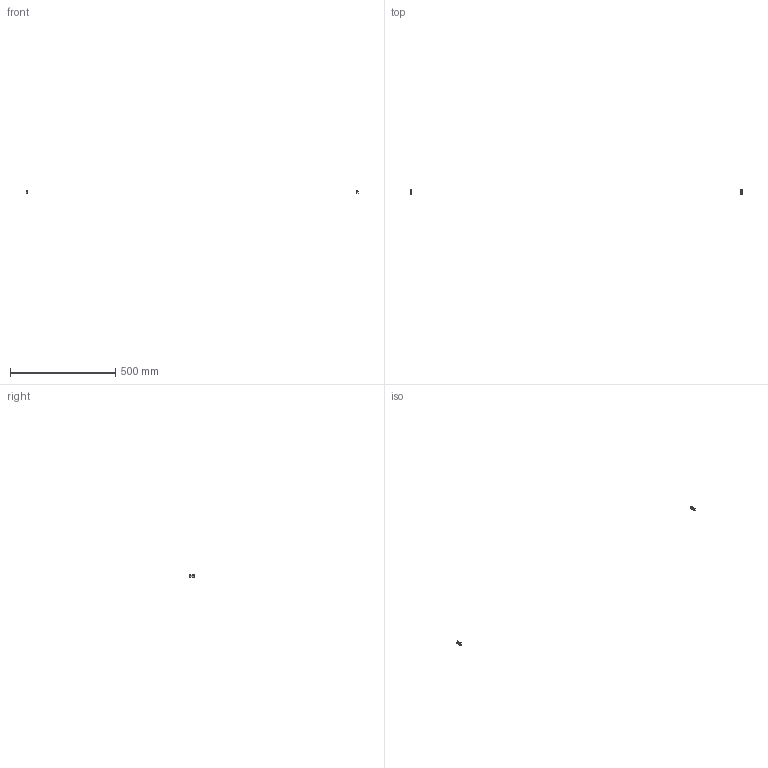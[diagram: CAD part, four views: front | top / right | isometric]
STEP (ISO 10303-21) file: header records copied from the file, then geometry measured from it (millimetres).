
FILE_DESCRIPTION(/* description */ (''),/* implementation_level */ '2;1');
FILE_NAME(/* name */ '4.frame-door#4.8#la-dsp-2',/* time_stamp */ '2014-12-01T20:13:11+01:00',/* author */ (''),/* organization */ (''),/* preprocessor_version */ 'ST-DEVELOPER v14',/* originating_system */ '',/* authorisation */ '');
FILE_SCHEMA (('AUTOMOTIVE_DESIGN'));
Length unit declared in the file: millimetre
Products named in the file (1): Document
Bounding box: 1579 x 23 x 14 mm (x, y, z)
Volume: 2826.6 mm3; surface area: 2150.7 mm2
Topology: 2 solids, 2 shells, 32 faces, 84 edges, 56 vertices
Faces by surface type: plane 16, bspline 16
Entity records: 2047 total; most frequent: CARTESIAN_POINT 910, B_SPLINE_CURVE_WITH_KNOTS 204, ORIENTED_EDGE 168, PCURVE 168, DEFINITIONAL_REPRESENTATION 168, SURFACE_CURVE 84, EDGE_CURVE 84, VERTEX_POINT 56
